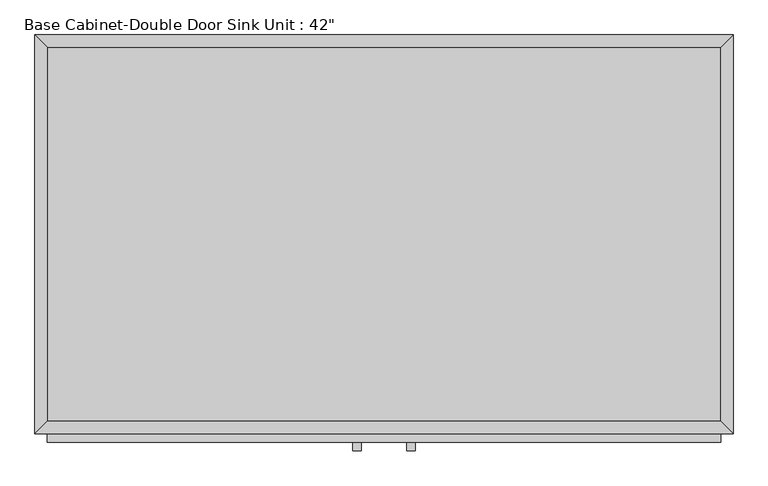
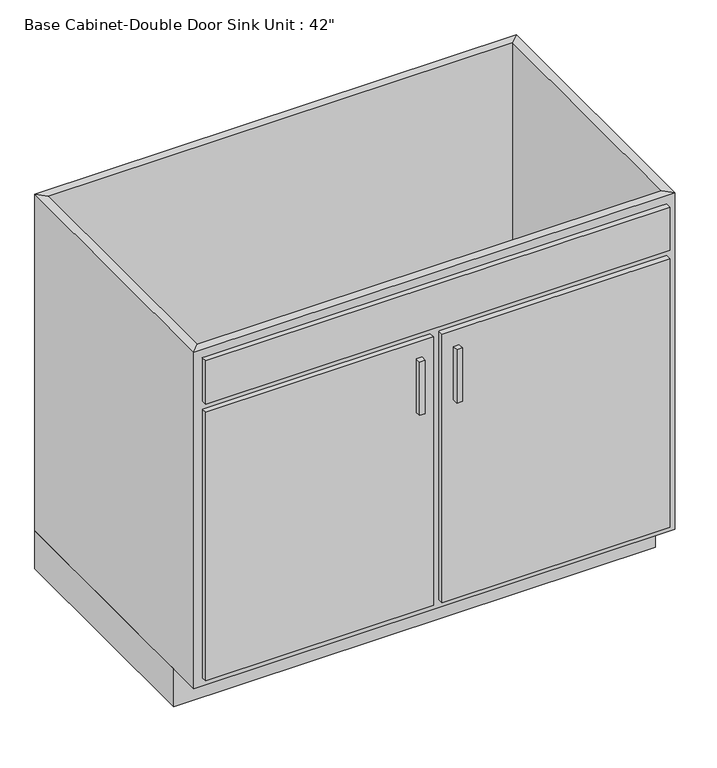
"""IFC4 building model written with IfcOpenShell, lengths in millimetres: furniture geometry."""

from ifc_helpers import new_model, si_unit, frame, origin, origin_with_axes, place, context, project, spatial, polyline, outline, extrude, faceted_brep, source, transform, mapped, element, save


def furniture_f167ba72(model_context):
    return source(origin(), model_context, "Body", "SolidModel", [
        extrude(outline(polyline([(-16.1872951, -635.0), (-28.8872951, -635.0), (-28.8872951, -622.3), (-16.1872951, -622.3), (-16.1872951, -635.0)])), frame((0.0, 0.0, 573.769895), z_axis=(0.0, 0.0, 1.0), x_axis=(1.0, 0.0, 0.0)), (0.0, 0.0, 1.0), 124.730105),
        extrude(outline(polyline([(66.3627049, -635.0), (53.6627049, -635.0), (53.6627049, -622.3), (66.3627049, -622.3), (66.3627049, -635.0)])), frame((0.0, 0.0, 573.769895), z_axis=(0.0, 0.0, 1.0), x_axis=(1.0, 0.0, 0.0)), (0.0, 0.0, 1.0), 124.730105),
        extrude(outline(polyline([(533.0877049, -19.05), (533.0877049, -590.55), (-495.6122951, -590.55), (-495.6122951, -19.05), (533.0877049, -19.05)])), frame((0.0, 0.0, 88.9), z_axis=(0.0, 0.0, 1.0), x_axis=(1.0, 0.0, 0.0)), (0.0, 0.0, 1.0), 19.05),
        faceted_brep([(533.0877049, -590.55, 876.3), (533.0877049, -590.55, 88.9), (-495.6122951, -590.55, 88.9), (-495.6122951, -590.55, 876.3), (552.1377049, -609.6, 876.3), (-514.6622951, -609.6, 876.3), (552.1377049, -609.6, 88.9), (-514.6622951, -609.6, 88.9), (-495.6122951, -19.05, 88.9), (-495.6122951, -19.05, 876.3), (-514.6622951, 0.0, 876.3), (-514.6622951, 0.0, 88.9), (533.0877049, -19.05, 88.9), (533.0877049, -19.05, 876.3), (552.1377049, 0.0, 876.3), (552.1377049, 0.0, 88.9)], [[[0, 1, 2, 3]], [[4, 0, 3, 5]], [[6, 4, 5, 7]], [[1, 6, 7, 2]], [[3, 2, 8, 9]], [[5, 3, 9, 10]], [[7, 5, 10, 11]], [[2, 7, 11, 8]], [[9, 8, 12, 13]], [[10, 9, 13, 14]], [[11, 10, 14, 15]], [[8, 11, 15, 12]], [[13, 12, 1, 0]], [[14, 13, 0, 4]], [[15, 14, 4, 6]], [[12, 15, 6, 1]]]),
        extrude(outline(polyline([(552.1377049, 0.0), (552.1377049, -533.4), (-514.6622951, -533.4), (-514.6622951, 0.0), (552.1377049, 0.0)])), origin_with_axes(), (0.0, 0.0, 1.0), 88.9),
        extrude(outline(polyline([(9.2127049, -622.3), (-495.6122951, -622.3), (-495.6122951, -609.6), (9.2127049, -609.6), (9.2127049, -622.3)])), frame((0.0, 0.0, 107.95), z_axis=(0.0, 0.0, 1.0), x_axis=(1.0, 0.0, 0.0)), (0.0, 0.0, 1.0), 628.65),
        extrude(outline(polyline([(533.0877049, -622.3), (28.2627049, -622.3), (28.2627049, -609.6), (533.0877049, -609.6), (533.0877049, -622.3)])), frame((0.0, 0.0, 107.95), z_axis=(0.0, 0.0, 1.0), x_axis=(1.0, 0.0, 0.0)), (0.0, 0.0, 1.0), 628.65),
        extrude(outline(polyline([(533.0877049, -622.3), (-495.6122951, -622.3), (-495.6122951, -609.6), (533.0877049, -609.6), (533.0877049, -622.3)])), frame((0.0, 0.0, 755.65), z_axis=(0.0, 0.0, 1.0), x_axis=(1.0, 0.0, 0.0)), (0.0, 0.0, 1.0), 101.6),
    ])


if __name__ == "__main__":
    model = new_model("IFC4")
    model_context = context("Model", 3, world=origin())
    ifc_project = project(units=[si_unit("LENGTHUNIT", "METRE", prefix="MILLI")], contexts=[model_context])
    site = spatial("IfcSite", under=ifc_project)
    building = spatial("IfcBuilding", under=site)
    placement = place(None, origin())
    furniture_shape = furniture_f167ba72(model_context)
    element("IfcFurniture", 1, ObjectType="Base Cabinet-Double Door Sink Unit : 42\"", at=placement, inside=building, context=model_context, shape_type="MappedRepresentation", body=[
        mapped(furniture_shape, transform((0.0, 0.0, 0.0), x_axis=(1.0, 0.0, 0.0), y_axis=(0.0, 1.0, 0.0), z_axis=(0.0, 0.0, 1.0))),
    ])
    save(model, "model.ifc")
